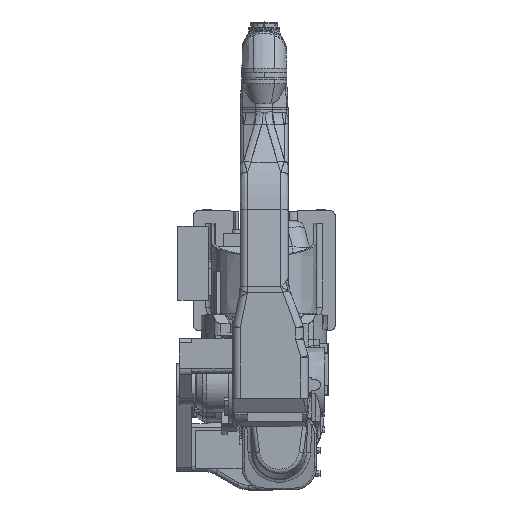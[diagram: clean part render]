
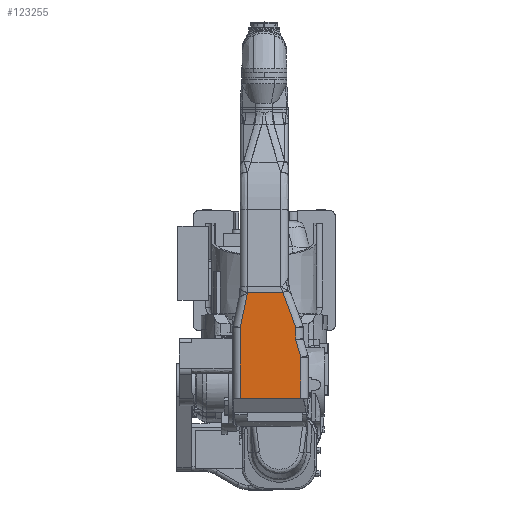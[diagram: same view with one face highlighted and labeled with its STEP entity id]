
A CAD part, top view. The second image highlights one B-rep face of the part: STEP entity #123255.
In plain terms, the highlighted planar face has unit normal (0, 0, -1).
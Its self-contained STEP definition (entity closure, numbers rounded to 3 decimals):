
#123176=CARTESIAN_POINT('Axis2P3D Location',(189.5,0.,267.)) ;
#123181=CARTESIAN_POINT('Line Origine',(3.939,393.62,267.)) ;
#123185=CARTESIAN_POINT('Vertex',(-72.,393.62,267.)) ;
#123187=CARTESIAN_POINT('Vertex',(79.878,393.62,267.)) ;
#123190=CARTESIAN_POINT('Line Origine',(107.939,317.977,267.)) ;
#123194=CARTESIAN_POINT('Vertex',(136.,242.334,267.)) ;
#123197=CARTESIAN_POINT('Line Origine',(136.,216.384,267.)) ;
#123201=CARTESIAN_POINT('Vertex',(136.,190.434,267.)) ;
#123204=CARTESIAN_POINT('Line Origine',(147.,153.02,267.)) ;
#123208=CARTESIAN_POINT('Vertex',(158.,115.605,267.)) ;
#123211=CARTESIAN_POINT('Line Origine',(158.,27.803,267.)) ;
#123215=CARTESIAN_POINT('Vertex',(158.,-60.,267.)) ;
#123218=CARTESIAN_POINT('Line Origine',(27.75,-60.,267.)) ;
#123222=CARTESIAN_POINT('Vertex',(-102.5,-60.,267.)) ;
#123225=CARTESIAN_POINT('Line Origine',(-102.5,91.984,267.)) ;
#123229=CARTESIAN_POINT('Vertex',(-102.5,243.968,267.)) ;
#123232=CARTESIAN_POINT('Line Origine',(-87.25,317.268,267.)) ;
#123236=CARTESIAN_POINT('Vertex',(-72.,390.568,267.)) ;
#123239=CARTESIAN_POINT('Line Origine',(-72.,392.094,267.)) ;
#123177=DIRECTION('Axis2P3D Direction',(0.,0.,-1.)) ;
#123178=DIRECTION('Axis2P3D XDirection',(1.,0.,0.)) ;
#123182=DIRECTION('Vector Direction',(1.,0.,0.)) ;
#123191=DIRECTION('Vector Direction',(0.348,-0.938,0.)) ;
#123198=DIRECTION('Vector Direction',(0.,-1.,0.)) ;
#123205=DIRECTION('Vector Direction',(0.282,-0.959,0.)) ;
#123212=DIRECTION('Vector Direction',(0.,-1.,0.)) ;
#123219=DIRECTION('Vector Direction',(-1.,0.,0.)) ;
#123226=DIRECTION('Vector Direction',(0.,1.,0.)) ;
#123233=DIRECTION('Vector Direction',(0.204,0.979,0.)) ;
#123240=DIRECTION('Vector Direction',(0.,1.,0.)) ;
#123179=AXIS2_PLACEMENT_3D('Plane Axis2P3D',#123176,#123177,#123178) ;
#123245=ORIENTED_EDGE('',*,*,#123189,.T.) ;
#123246=ORIENTED_EDGE('',*,*,#123196,.T.) ;
#123247=ORIENTED_EDGE('',*,*,#123203,.T.) ;
#123248=ORIENTED_EDGE('',*,*,#123210,.T.) ;
#123249=ORIENTED_EDGE('',*,*,#123217,.T.) ;
#123250=ORIENTED_EDGE('',*,*,#123224,.T.) ;
#123251=ORIENTED_EDGE('',*,*,#123231,.T.) ;
#123252=ORIENTED_EDGE('',*,*,#123238,.T.) ;
#123253=ORIENTED_EDGE('',*,*,#123243,.T.) ;
#123183=VECTOR('Line Direction',#123182,1.) ;
#123192=VECTOR('Line Direction',#123191,1.) ;
#123199=VECTOR('Line Direction',#123198,1.) ;
#123206=VECTOR('Line Direction',#123205,1.) ;
#123213=VECTOR('Line Direction',#123212,1.) ;
#123220=VECTOR('Line Direction',#123219,1.) ;
#123227=VECTOR('Line Direction',#123226,1.) ;
#123234=VECTOR('Line Direction',#123233,1.) ;
#123241=VECTOR('Line Direction',#123240,1.) ;
#123255=ADVANCED_FACE('E__A I_____',(#123254),#123180,.T.) ;
#123189=EDGE_CURVE('',#123186,#123188,#123184,.T.) ;
#123196=EDGE_CURVE('',#123188,#123195,#123193,.T.) ;
#123203=EDGE_CURVE('',#123195,#123202,#123200,.T.) ;
#123210=EDGE_CURVE('',#123202,#123209,#123207,.T.) ;
#123217=EDGE_CURVE('',#123209,#123216,#123214,.T.) ;
#123224=EDGE_CURVE('',#123216,#123223,#123221,.T.) ;
#123231=EDGE_CURVE('',#123223,#123230,#123228,.T.) ;
#123238=EDGE_CURVE('',#123230,#123237,#123235,.T.) ;
#123243=EDGE_CURVE('',#123237,#123186,#123242,.T.) ;
#123244=EDGE_LOOP('',(#123245,#123246,#123247,#123248,#123249,#123250,#123251,#123252,#123253)) ;
#123254=FACE_OUTER_BOUND('',#123244,.T.) ;
#123184=LINE('Line',#123181,#123183) ;
#123193=LINE('Line',#123190,#123192) ;
#123200=LINE('Line',#123197,#123199) ;
#123207=LINE('Line',#123204,#123206) ;
#123214=LINE('Line',#123211,#123213) ;
#123221=LINE('Line',#123218,#123220) ;
#123228=LINE('Line',#123225,#123227) ;
#123235=LINE('Line',#123232,#123234) ;
#123242=LINE('Line',#123239,#123241) ;
#123180=PLANE('',#123179) ;
#123186=VERTEX_POINT('',#123185) ;
#123188=VERTEX_POINT('',#123187) ;
#123195=VERTEX_POINT('',#123194) ;
#123202=VERTEX_POINT('',#123201) ;
#123209=VERTEX_POINT('',#123208) ;
#123216=VERTEX_POINT('',#123215) ;
#123223=VERTEX_POINT('',#123222) ;
#123230=VERTEX_POINT('',#123229) ;
#123237=VERTEX_POINT('',#123236) ;
